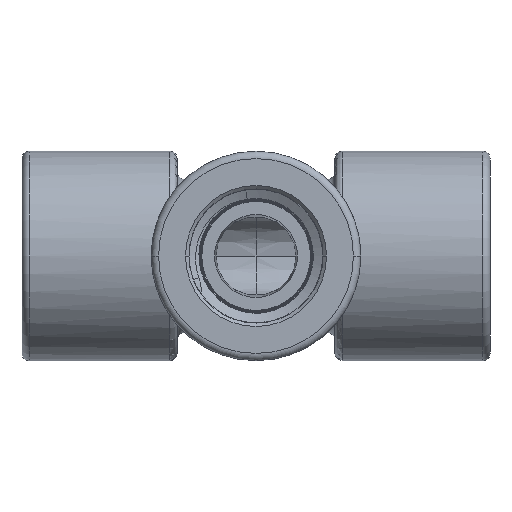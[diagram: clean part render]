
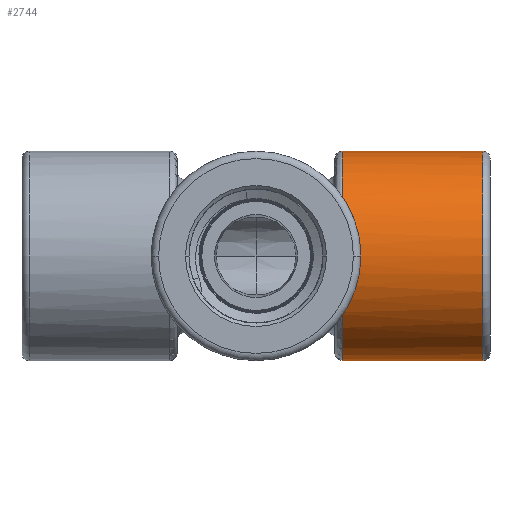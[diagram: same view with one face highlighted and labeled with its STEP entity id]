
A CAD part, front view. The second image highlights one B-rep face of the part: STEP entity #2744.
In plain terms, the highlighted cylindrical face has radius 12.75 mm (diameter 25.5 mm), a partial arc.
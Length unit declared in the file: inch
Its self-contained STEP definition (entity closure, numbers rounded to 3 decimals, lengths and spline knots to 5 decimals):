
#118=ELLIPSE('',#2838,0.70989,0.50197);
#119=ELLIPSE('',#2896,0.70989,0.50197);
#122=CYLINDRICAL_SURFACE('',#2886,0.50197);
#201=CIRCLE('',#2883,0.50197);
#205=CIRCLE('',#2889,0.50197);
#206=CIRCLE('',#2890,0.50197);
#294=VECTOR('',#3111,1.);
#295=VECTOR('',#3112,1.);
#300=VECTOR('',#3133,1.);
#387=LINE('',#16125,#294);
#388=LINE('',#16127,#295);
#393=LINE('',#16465,#300);
#433=VERTEX_POINT('',#4277);
#437=VERTEX_POINT('',#4285);
#578=VERTEX_POINT('',#16119);
#579=VERTEX_POINT('',#16121);
#580=VERTEX_POINT('',#16126);
#581=VERTEX_POINT('',#16128);
#583=VERTEX_POINT('',#16139);
#584=VERTEX_POINT('',#16142);
#593=VERTEX_POINT('',#16440);
#594=VERTEX_POINT('',#16471);
#595=VERTEX_POINT('',#16492);
#849=B_SPLINE_CURVE_WITH_KNOTS('',3,(#16460,#16461,#16462,#16463,#16464),
 .UNSPECIFIED.,.F.,.U.,(4,1,4),(0.,0.5,1.),.UNSPECIFIED.);
#850=B_SPLINE_CURVE_WITH_KNOTS('',3,(#16466,#16467,#16468,#16469,#16470),
 .UNSPECIFIED.,.F.,.U.,(4,1,4),(0.,0.5,1.),.UNSPECIFIED.);
#851=B_SPLINE_CURVE_WITH_KNOTS('',3,(#16472,#16473,#16474,#16475,#16476,
#16477,#16478,#16479,#16480,#16481,#16482,#16483,#16484,#16485,#16486,#16487,
#16488,#16489,#16490,#16491),.UNSPECIFIED.,.F.,.U.,(4,2,2,2,2,2,2,2,2,4),
(-3.83012,-3.06987,-2.30187,-1.5747,
-1.04115,-0.70714,-0.50124,-0.32382,
-0.18107,0.),.UNSPECIFIED.);
#983=EDGE_CURVE('',#437,#433,#118,.T.);
#1195=EDGE_CURVE('',#578,#579,#201,.F.);
#1198=EDGE_CURVE('',#578,#580,#387,.T.);
#1199=EDGE_CURVE('',#579,#581,#388,.T.);
#1202=EDGE_CURVE('',#583,#580,#205,.T.);
#1203=EDGE_CURVE('',#581,#584,#206,.T.);
#1217=EDGE_CURVE('',#584,#593,#849,.T.);
#1218=EDGE_CURVE('',#593,#437,#393,.F.);
#1219=EDGE_CURVE('',#594,#583,#850,.T.);
#1220=EDGE_CURVE('',#594,#595,#851,.F.);
#1221=EDGE_CURVE('',#433,#595,#119,.T.);
#1827=ORIENTED_EDGE('',*,*,#983,.F.);
#1828=ORIENTED_EDGE('',*,*,#1218,.F.);
#1829=ORIENTED_EDGE('',*,*,#1217,.F.);
#1830=ORIENTED_EDGE('',*,*,#1203,.F.);
#1831=ORIENTED_EDGE('',*,*,#1199,.F.);
#1832=ORIENTED_EDGE('',*,*,#1195,.F.);
#1833=ORIENTED_EDGE('',*,*,#1198,.T.);
#1834=ORIENTED_EDGE('',*,*,#1202,.F.);
#1835=ORIENTED_EDGE('',*,*,#1219,.F.);
#1836=ORIENTED_EDGE('',*,*,#1220,.T.);
#1837=ORIENTED_EDGE('',*,*,#1221,.F.);
#2395=EDGE_LOOP('',(#1827,#1828,#1829,#1830,#1831,#1832,#1833,#1834,#1835,
#1836,#1837));
#2572=FACE_BOUND('',#2395,.T.);
#2744=ADVANCED_FACE('',(#2572),#122,.T.);
#2838=AXIS2_PLACEMENT_3D('',#4286,#2971,#2972);
#2883=AXIS2_PLACEMENT_3D('',#16120,#3103,#3104);
#2886=AXIS2_PLACEMENT_3D('',#16124,#3109,#3110);
#2889=AXIS2_PLACEMENT_3D('',#16140,#3116,#3117);
#2890=AXIS2_PLACEMENT_3D('',#16141,#3118,#3119);
#2896=AXIS2_PLACEMENT_3D('',#16493,#3134,#3135);
#2971=DIRECTION('',(-0.707,-0.707,0.));
#2972=DIRECTION('',(0.502,-0.502,0.));
#3103=DIRECTION('',(-1.,0.,0.));
#3104=DIRECTION('',(0.,0.,-0.502));
#3109=DIRECTION('',(-1.,0.,0.));
#3110=DIRECTION('',(0.,0.,-0.502));
#3111=DIRECTION('',(-1.,0.,0.));
#3112=DIRECTION('',(-1.,0.,0.));
#3116=DIRECTION('',(-1.,0.,0.));
#3117=DIRECTION('',(0.,0.,-0.502));
#3118=DIRECTION('',(-1.,0.,0.));
#3119=DIRECTION('',(0.,0.,-0.502));
#3133=DIRECTION('',(-1.,0.,0.));
#3134=DIRECTION('',(-0.707,-0.707,0.));
#3135=DIRECTION('',(0.502,-0.502,0.));
#4277=CARTESIAN_POINT('',(0.50197,-0.50197,0.));
#4285=CARTESIAN_POINT('',(0.42323,-0.42323,-0.26991));
#4286=CARTESIAN_POINT('',(0.,0.,0.));
#16119=CARTESIAN_POINT('',(1.0874,0.,0.50197));
#16120=CARTESIAN_POINT('',(1.0874,0.,0.));
#16121=CARTESIAN_POINT('',(1.0874,0.,-0.50197));
#16124=CARTESIAN_POINT('',(1.12205,0.,0.));
#16125=CARTESIAN_POINT('',(1.0874,0.,0.50197));
#16126=CARTESIAN_POINT('',(0.41339,0.,0.50197));
#16127=CARTESIAN_POINT('',(1.0874,0.,-0.50197));
#16128=CARTESIAN_POINT('',(0.41339,0.,-0.50197));
#16139=CARTESIAN_POINT('',(0.41339,-0.41655,0.28011));
#16140=CARTESIAN_POINT('',(0.41339,0.,0.));
#16141=CARTESIAN_POINT('',(0.41339,0.,0.));
#16142=CARTESIAN_POINT('',(0.41339,-0.41655,-0.28011));
#16440=CARTESIAN_POINT('',(0.41311,-0.42323,-0.26991));
#16460=CARTESIAN_POINT('',(0.41339,-0.41655,-0.28011));
#16461=CARTESIAN_POINT('',(0.41339,-0.4177,-0.2784));
#16462=CARTESIAN_POINT('',(0.41334,-0.41996,-0.27499));
#16463=CARTESIAN_POINT('',(0.4132,-0.42215,-0.2716));
#16464=CARTESIAN_POINT('',(0.41311,-0.42323,-0.26991));
#16465=CARTESIAN_POINT('',(1.12205,-0.42323,-0.26991));
#16466=CARTESIAN_POINT('',(0.41229,-0.42979,0.25934));
#16467=CARTESIAN_POINT('',(0.41262,-0.42781,0.26261));
#16468=CARTESIAN_POINT('',(0.41317,-0.42364,0.26936));
#16469=CARTESIAN_POINT('',(0.41339,-0.41899,0.27647));
#16470=CARTESIAN_POINT('',(0.41339,-0.41655,0.28011));
#16471=CARTESIAN_POINT('',(0.41229,-0.42979,0.25934));
#16472=CARTESIAN_POINT('',(0.4726,-0.48034,0.14576));
#16473=CARTESIAN_POINT('',(0.47165,-0.47576,0.16084));
#16474=CARTESIAN_POINT('',(0.46878,-0.47039,0.17589));
#16475=CARTESIAN_POINT('',(0.45936,-0.45884,0.20413));
#16476=CARTESIAN_POINT('',(0.45271,-0.45258,0.21754));
#16477=CARTESIAN_POINT('',(0.43577,-0.44065,0.24076));
#16478=CARTESIAN_POINT('',(0.42647,-0.43554,0.24966));
#16479=CARTESIAN_POINT('',(0.41005,-0.42876,0.2611));
#16480=CARTESIAN_POINT('',(0.40311,-0.42656,0.26462));
#16481=CARTESIAN_POINT('',(0.39251,-0.42425,0.2683));
#16482=CARTESIAN_POINT('',(0.38811,-0.42356,0.26939));
#16483=CARTESIAN_POINT('',(0.38105,-0.42317,0.27));
#16484=CARTESIAN_POINT('',(0.37829,-0.42319,0.26997));
#16485=CARTESIAN_POINT('',(0.37336,-0.42373,0.26912));
#16486=CARTESIAN_POINT('',(0.37119,-0.42418,0.26842));
#16487=CARTESIAN_POINT('',(0.36772,-0.42543,0.26642));
#16488=CARTESIAN_POINT('',(0.36642,-0.42613,0.26531));
#16489=CARTESIAN_POINT('',(0.364,-0.42796,0.26234));
#16490=CARTESIAN_POINT('',(0.36313,-0.42912,0.26045));
#16491=CARTESIAN_POINT('',(0.36259,-0.43031,0.25847));
#16492=CARTESIAN_POINT('',(0.45866,-0.45866,0.20397));
#16493=CARTESIAN_POINT('',(0.,0.,0.));
